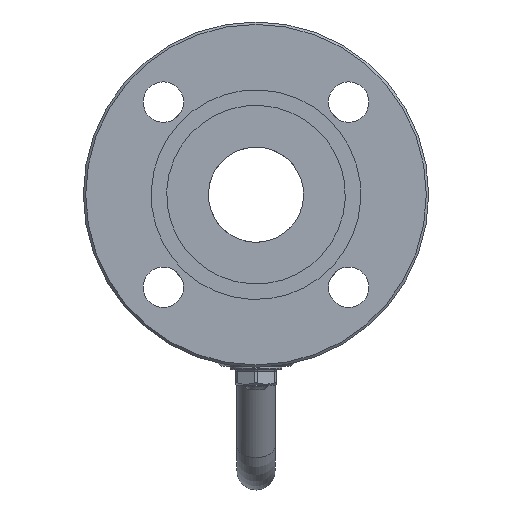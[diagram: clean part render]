
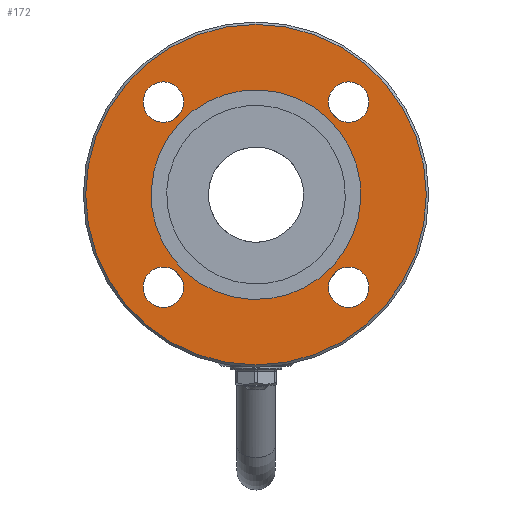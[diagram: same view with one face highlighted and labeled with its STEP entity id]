
A CAD part, left-side view. The second image highlights one B-rep face of the part: STEP entity #172.
In plain terms, the highlighted planar face has unit normal (-1, 0, 0).
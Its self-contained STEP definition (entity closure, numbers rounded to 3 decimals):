
#172=ADVANCED_FACE('',(#1421,#1423,#1425,#1427,#1429,#1431),#1433,.T.);
#1421=FACE_BOUND('',#1422,.T.);
#1422=EDGE_LOOP('',(#2291));
#1423=FACE_BOUND('',#1424,.T.);
#1424=EDGE_LOOP('',(#2292));
#1425=FACE_BOUND('',#1426,.T.);
#1426=EDGE_LOOP('',(#2293));
#1427=FACE_BOUND('',#1428,.T.);
#1428=EDGE_LOOP('',(#2294));
#1429=FACE_BOUND('',#1430,.T.);
#1430=EDGE_LOOP('',(#2295));
#1431=FACE_OUTER_BOUND('',#1432,.T.);
#1432=EDGE_LOOP('',(#2296));
#1433=PLANE('',#1434);
#1434=AXIS2_PLACEMENT_3D('',#1435,#1436,#1437);
#1435=CARTESIAN_POINT('',(-78.5,0.,0.));
#1436=DIRECTION('',(-1.,0.,0.));
#1437=DIRECTION('',(0.,1.,0.));
#2291=ORIENTED_EDGE('',*,*,#3259,.T.);
#2292=ORIENTED_EDGE('',*,*,#3256,.T.);
#2293=ORIENTED_EDGE('',*,*,#3254,.T.);
#2294=ORIENTED_EDGE('',*,*,#3252,.T.);
#2295=ORIENTED_EDGE('',*,*,#3282,.T.);
#2296=ORIENTED_EDGE('',*,*,#3283,.T.);
#3252=EDGE_CURVE('',#3604,#3604,#3605,.T.);
#3254=EDGE_CURVE('',#3607,#3607,#3608,.T.);
#3256=EDGE_CURVE('',#3610,#3610,#3611,.T.);
#3259=EDGE_CURVE('',#3613,#3613,#3615,.T.);
#3282=EDGE_CURVE('',#3653,#3653,#3654,.T.);
#3283=EDGE_CURVE('',#3655,#3655,#3656,.T.);
#3604=VERTEX_POINT('',#4559);
#3605=CIRCLE('',#4560,8.5);
#3607=VERTEX_POINT('',#4567);
#3608=CIRCLE('',#4568,8.5);
#3610=VERTEX_POINT('',#4575);
#3611=CIRCLE('',#4576,8.5);
#3613=VERTEX_POINT('',#4583);
#3615=CIRCLE('',#4587,8.5);
#3653=VERTEX_POINT('',#4799);
#3654=CIRCLE('',#4800,44.);
#3655=VERTEX_POINT('',#4804);
#3656=CIRCLE('',#4805,71.5);
#4559=CARTESIAN_POINT('',(-78.5,47.391,38.891));
#4560=AXIS2_PLACEMENT_3D('',#4561,#4562,#4563);
#4561=CARTESIAN_POINT('',(-78.5,38.891,38.891));
#4562=DIRECTION('',(1.,0.,0.));
#4563=DIRECTION('',(0.,1.,0.));
#4567=CARTESIAN_POINT('',(-78.5,38.891,-47.391));
#4568=AXIS2_PLACEMENT_3D('',#4569,#4570,#4571);
#4569=CARTESIAN_POINT('',(-78.5,38.891,-38.891));
#4570=DIRECTION('',(1.,0.,0.));
#4571=DIRECTION('',(0.,0.,-1.));
#4575=CARTESIAN_POINT('',(-78.5,-47.391,-38.891));
#4576=AXIS2_PLACEMENT_3D('',#4577,#4578,#4579);
#4577=CARTESIAN_POINT('',(-78.5,-38.891,-38.891));
#4578=DIRECTION('',(1.,0.,0.));
#4579=DIRECTION('',(0.,-1.,0.));
#4583=CARTESIAN_POINT('',(-78.5,-38.891,47.391));
#4587=AXIS2_PLACEMENT_3D('',#4588,#4589,#4590);
#4588=CARTESIAN_POINT('',(-78.5,-38.891,38.891));
#4589=DIRECTION('',(1.,0.,0.));
#4590=DIRECTION('',(0.,0.,1.));
#4799=CARTESIAN_POINT('',(-78.5,35.141,-26.479));
#4800=AXIS2_PLACEMENT_3D('',#4801,#4802,#4803);
#4801=CARTESIAN_POINT('',(-78.5,0.,0.));
#4802=DIRECTION('',(1.,0.,0.));
#4803=DIRECTION('',(0.,0.799,-0.602));
#4804=CARTESIAN_POINT('',(-78.5,71.5,0.));
#4805=AXIS2_PLACEMENT_3D('',#4806,#4807,#4808);
#4806=CARTESIAN_POINT('',(-78.5,0.,0.));
#4807=DIRECTION('',(-1.,0.,0.));
#4808=DIRECTION('',(0.,1.,0.));
